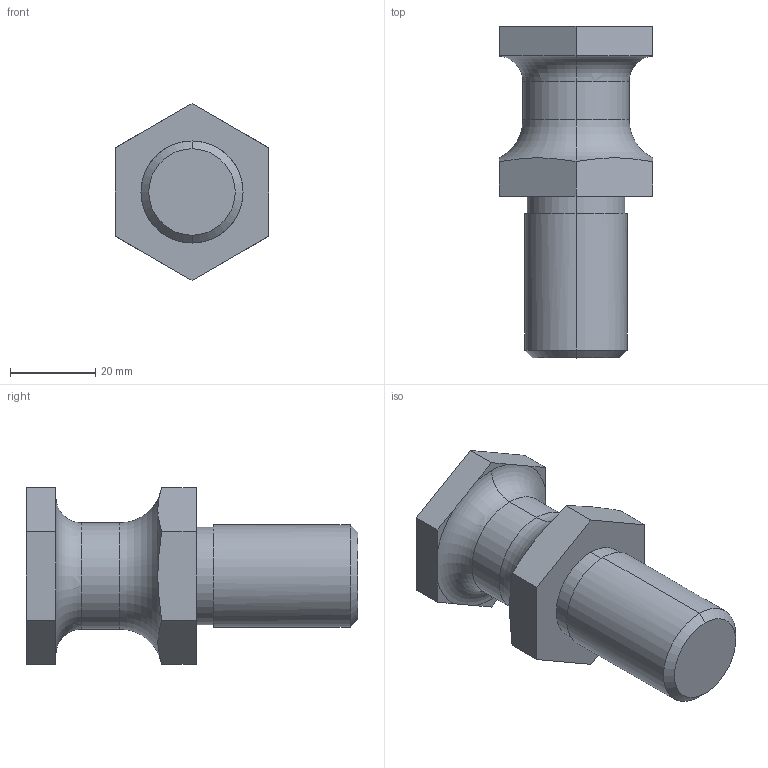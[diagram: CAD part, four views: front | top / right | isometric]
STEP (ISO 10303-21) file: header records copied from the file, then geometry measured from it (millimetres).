
FILE_DESCRIPTION(('CATIA V5 STEP Exchange'),'2;1');
FILE_NAME('C:\Users\Utente\Desktop\3D files 395P\395P-02-025-024.stp','2020-04-09T18:41:40+00:00',('none'),('none'),'CATIA Version 5 Release 20 GA (IN-10)','CATIA V5 STEP AP203','none');
FILE_SCHEMA(('CONFIG_CONTROL_DESIGN'));
Length unit declared in the file: millimetre
Products named in the file (1): _395P-02-025-024
Bounding box: 36 x 78 x 41.57 mm (x, y, z)
Volume: 48574.5 mm3; surface area: 9778.6 mm2
Topology: 1 solids, 1 shells, 34 faces, 98 edges, 68 vertices
Faces by surface type: plane 22, cylinder 6, torus 4, cone 2
Entity records: 1322 total; most frequent: CARTESIAN_POINT 411, ORIENTED_EDGE 196, DIRECTION 148, EDGE_CURVE 98, AXIS2_PLACEMENT_3D 71, VERTEX_POINT 68, VECTOR 44, LINE 44
